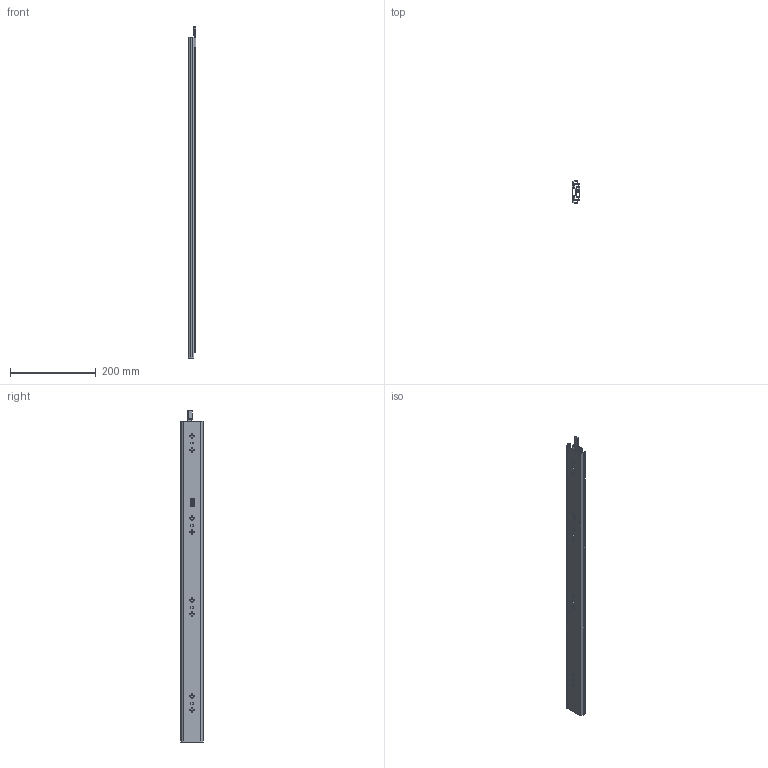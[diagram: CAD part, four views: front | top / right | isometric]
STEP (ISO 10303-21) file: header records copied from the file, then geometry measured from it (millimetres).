
FILE_DESCRIPTION (( 'STEP AP214' ), '1' );
FILE_NAME ('DSCHMD750MML-CLOSED.STEP', '2018-11-27T08:00:46', ( '' ), ( '' ), 'SwSTEP 2.0', 'SolidWorks 2017', '' );
FILE_SCHEMA (( 'AUTOMOTIVE_DESIGN' ));
Length unit declared in the file: millimetre
Products named in the file (5): DSCHMDL-3_750; DSCHMDL-4; DSCHMDL-2_750; DSCHMDL-1_750; DSCHMD750MML-CLOSED
Assembly tree (4 placements, depth 2):
  DSCHMD750MML-CLOSED
    DSCHMDL-3_750
    DSCHMDL-2_750
    DSCHMDL-1_750
    DSCHMDL-4
Bounding box: 18.7 x 53 x 776.1 mm (x, y, z)
Volume: 252844.2 mm3; surface area: 264164.5 mm2
Topology: 4 solids, 4 shells, 1086 faces, 3020 edges, 2004 vertices
Faces by surface type: plane 576, bspline 237, cylinder 205, cone 60, torus 4, sphere 4
Entity records: 36888 total; most frequent: CARTESIAN_POINT 9902, ORIENTED_EDGE 6032, DIRECTION 4610, EDGE_CURVE 3016, VERTEX_POINT 2004, LINE 1946, VECTOR 1946, AXIS2_PLACEMENT_3D 1332
